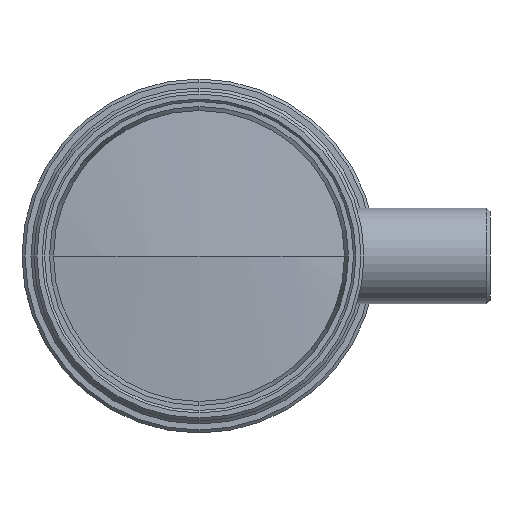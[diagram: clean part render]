
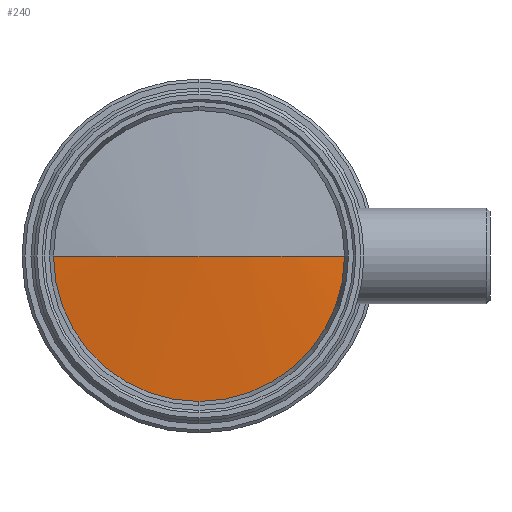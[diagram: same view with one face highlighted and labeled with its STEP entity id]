
A CAD part, left-side view. The second image highlights one B-rep face of the part: STEP entity #240.
In plain terms, the highlighted spherical face has radius 180.8 mm.
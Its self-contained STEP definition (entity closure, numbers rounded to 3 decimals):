
#103 = SPHERICAL_SURFACE ( 'NONE', #2086, 180.8 ) ;
#148 = DIRECTION ( 'NONE',  ( 0., 1., 0. ) ) ;
#168 = DIRECTION ( 'NONE',  ( 1., 0., 0. ) ) ;
#230 = CIRCLE ( 'NONE', #2358, 180.8 ) ;
#240 = ADVANCED_FACE ( 'NONE', ( #2540 ), #103, .T. ) ;
#262 = EDGE_CURVE ( 'NONE', #277, #1597, #1381, .T. ) ;
#277 = VERTEX_POINT ( 'NONE', #877 ) ;
#579 = ORIENTED_EDGE ( 'NONE', *, *, #1246, .T. ) ;
#627 = EDGE_CURVE ( 'NONE', #2535, #1169, #771, .T. ) ;
#645 = DIRECTION ( 'NONE',  ( 0., 1., 0. ) ) ;
#771 = CIRCLE ( 'NONE', #3028, 24.25 ) ;
#877 = CARTESIAN_POINT ( 'NONE',  ( -256.076, 24.25, 0. ) ) ;
#923 = CARTESIAN_POINT ( 'NONE',  ( -256.076, 0., -24.25 ) ) ;
#970 = ORIENTED_EDGE ( 'NONE', *, *, #262, .F. ) ;
#999 = CARTESIAN_POINT ( 'NONE',  ( -256.076, -24.25, 0. ) ) ;
#1047 = DIRECTION ( 'NONE',  ( 0., 0., 1. ) ) ;
#1166 = CARTESIAN_POINT ( 'NONE',  ( -257.71, 0., 0. ) ) ;
#1169 = VERTEX_POINT ( 'NONE', #999 ) ;
#1246 = EDGE_CURVE ( 'NONE', #277, #2535, #3080, .T. ) ;
#1284 = ORIENTED_EDGE ( 'NONE', *, *, #1447, .T. ) ;
#1367 = DIRECTION ( 'NONE',  ( 0., 0., 1. ) ) ;
#1381 = CIRCLE ( 'NONE', #2400, 180.8 ) ;
#1417 = DIRECTION ( 'NONE',  ( 0., 0., 1. ) ) ;
#1447 = EDGE_CURVE ( 'NONE', #1169, #1597, #230, .T. ) ;
#1597 = VERTEX_POINT ( 'NONE', #1166 ) ;
#1787 = CARTESIAN_POINT ( 'NONE',  ( -256.076, 0., 0. ) ) ;
#1904 = DIRECTION ( 'NONE',  ( -1., 0., 0. ) ) ;
#2001 = DIRECTION ( 'NONE',  ( -1., 0., 0. ) ) ;
#2061 = DIRECTION ( 'NONE',  ( 0., 0., -1. ) ) ;
#2086 = AXIS2_PLACEMENT_3D ( 'NONE', #2101, #2094, #645 ) ;
#2094 = DIRECTION ( 'NONE',  ( 0., 0., -1. ) ) ;
#2101 = CARTESIAN_POINT ( 'NONE',  ( -76.91, 0., 0. ) ) ;
#2358 = AXIS2_PLACEMENT_3D ( 'NONE', #2769, #2061, #148 ) ;
#2400 = AXIS2_PLACEMENT_3D ( 'NONE', #2806, #1367, #168 ) ;
#2535 = VERTEX_POINT ( 'NONE', #923 ) ;
#2540 = FACE_OUTER_BOUND ( 'NONE', #2708, .T. ) ;
#2708 = EDGE_LOOP ( 'NONE', ( #3043, #1284, #970, #579 ) ) ;
#2769 = CARTESIAN_POINT ( 'NONE',  ( -76.91, 0., 0. ) ) ;
#2806 = CARTESIAN_POINT ( 'NONE',  ( -76.91, 0., 0. ) ) ;
#3028 = AXIS2_PLACEMENT_3D ( 'NONE', #3081, #1904, #1417 ) ;
#3043 = ORIENTED_EDGE ( 'NONE', *, *, #627, .T. ) ;
#3080 = CIRCLE ( 'NONE', #3092, 24.25 ) ;
#3081 = CARTESIAN_POINT ( 'NONE',  ( -256.076, 0., 0. ) ) ;
#3092 = AXIS2_PLACEMENT_3D ( 'NONE', #1787, #2001, #1047 ) ;
